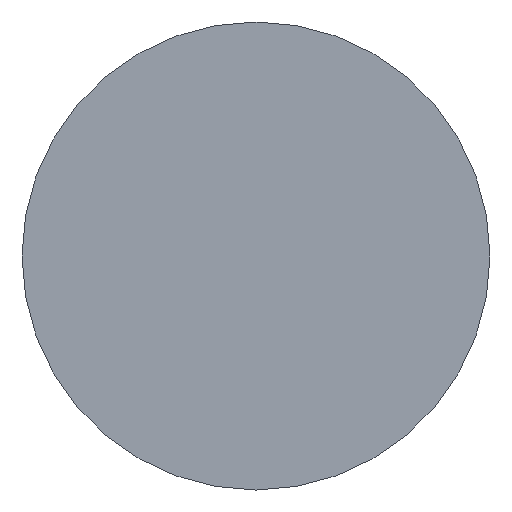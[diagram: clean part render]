
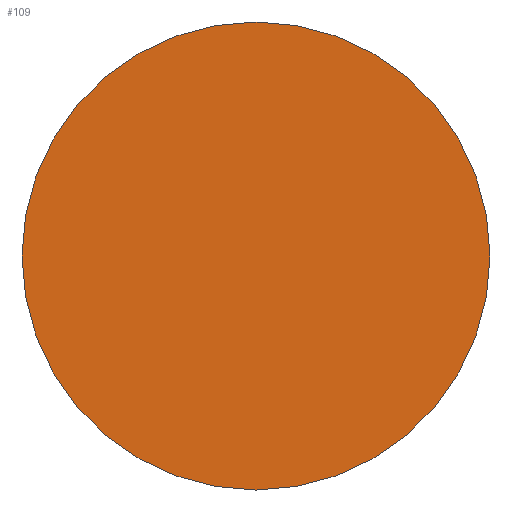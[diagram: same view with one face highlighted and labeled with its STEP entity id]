
A CAD part, left-side view. The second image highlights one B-rep face of the part: STEP entity #109.
In plain terms, the highlighted planar face has unit normal (-1, 0, 0).
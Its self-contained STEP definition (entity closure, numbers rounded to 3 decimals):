
#31 = CYLINDRICAL_SURFACE('',#32,1.8);
#32 = AXIS2_PLACEMENT_3D('',#33,#34,#35);
#33 = CARTESIAN_POINT('',(11.,-38.,-8.2));
#34 = DIRECTION('',(1.,0.,0.));
#35 = DIRECTION('',(-0.,0.,1.));
#56 = VERTEX_POINT('',#57);
#57 = CARTESIAN_POINT('',(11.,-38.,-6.4));
#78 = EDGE_CURVE('',#56,#56,#79,.T.);
#79 = SURFACE_CURVE('',#80,(#85,#92),.PCURVE_S1.);
#80 = CIRCLE('',#81,1.8);
#81 = AXIS2_PLACEMENT_3D('',#82,#83,#84);
#82 = CARTESIAN_POINT('',(11.,-38.,-8.2));
#83 = DIRECTION('',(1.,0.,0.));
#84 = DIRECTION('',(-0.,0.,1.));
#85 = PCURVE('',#31,#86);
#86 = DEFINITIONAL_REPRESENTATION('',(#87),#91);
#87 = LINE('',#88,#89);
#88 = CARTESIAN_POINT('',(0.,0.));
#89 = VECTOR('',#90,1.);
#90 = DIRECTION('',(1.,0.));
#91 = ( GEOMETRIC_REPRESENTATION_CONTEXT(2) 
PARAMETRIC_REPRESENTATION_CONTEXT() REPRESENTATION_CONTEXT('2D SPACE',''
  ) );
#92 = PCURVE('',#93,#98);
#93 = PLANE('',#94);
#94 = AXIS2_PLACEMENT_3D('',#95,#96,#97);
#95 = CARTESIAN_POINT('',(11.,-38.,-8.2));
#96 = DIRECTION('',(1.,0.,0.));
#97 = DIRECTION('',(-0.,0.,1.));
#98 = DEFINITIONAL_REPRESENTATION('',(#99),#103);
#99 = CIRCLE('',#100,1.8);
#100 = AXIS2_PLACEMENT_2D('',#101,#102);
#101 = CARTESIAN_POINT('',(0.,0.));
#102 = DIRECTION('',(1.,0.));
#103 = ( GEOMETRIC_REPRESENTATION_CONTEXT(2) 
PARAMETRIC_REPRESENTATION_CONTEXT() REPRESENTATION_CONTEXT('2D SPACE',''
  ) );
#109 = ADVANCED_FACE('',(#110),#93,.F.);
#110 = FACE_BOUND('',#111,.T.);
#111 = EDGE_LOOP('',(#112));
#112 = ORIENTED_EDGE('',*,*,#78,.F.);
